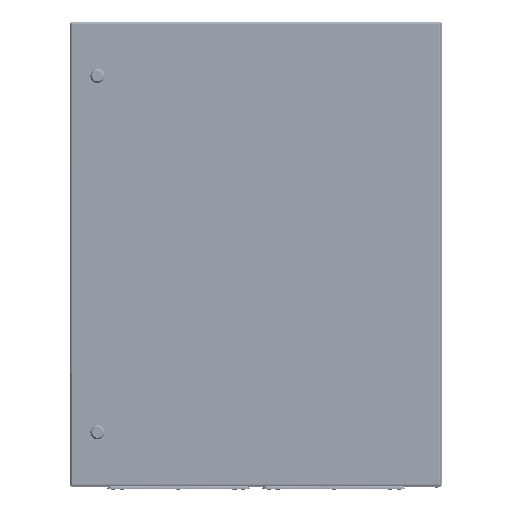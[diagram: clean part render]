
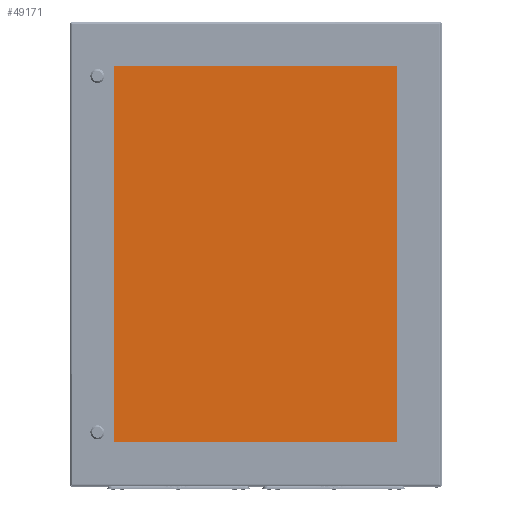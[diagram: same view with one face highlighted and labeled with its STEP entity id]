
A CAD part, top view. The second image highlights one B-rep face of the part: STEP entity #49171.
In plain terms, the highlighted planar face has unit normal (0, 0, 1).
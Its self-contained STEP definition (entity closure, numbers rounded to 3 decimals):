
#813 = CARTESIAN_POINT ( 'NONE',  ( -314., -414., 2. ) ) ;
#1295 = VECTOR ( 'NONE', #49162, 1000. ) ;
#2080 = DIRECTION ( 'NONE',  ( 1., 0., 0. ) ) ;
#2242 = EDGE_CURVE ( 'NONE', #9258, #38231, #34853, .T. ) ;
#2252 = CARTESIAN_POINT ( 'NONE',  ( 0., 0., 2. ) ) ;
#2284 = ORIENTED_EDGE ( 'NONE', *, *, #41032, .T. ) ;
#3219 = ORIENTED_EDGE ( 'NONE', *, *, #14538, .T. ) ;
#3426 = CARTESIAN_POINT ( 'NONE',  ( 314., -414., 2. ) ) ;
#4525 = EDGE_LOOP ( 'NONE', ( #21412, #2284, #34704, #41956, #3219, #46500, #36527, #48562 ) ) ;
#5798 = EDGE_CURVE ( 'NONE', #38625, #10146, #10259, .T. ) ;
#5870 = LINE ( 'NONE', #14790, #9302 ) ;
#6093 = EDGE_CURVE ( 'NONE', #49221, #12010, #29842, .T. ) ;
#6717 = CARTESIAN_POINT ( 'NONE',  ( -314., 415., 2. ) ) ;
#9258 = VERTEX_POINT ( 'NONE', #6717 ) ;
#9302 = VECTOR ( 'NONE', #31752, 1000. ) ;
#10146 = VERTEX_POINT ( 'NONE', #43027 ) ;
#10259 = CIRCLE ( 'NONE', #36962, 1. ) ;
#11228 = CARTESIAN_POINT ( 'NONE',  ( -314., 414., 2. ) ) ;
#12010 = VERTEX_POINT ( 'NONE', #42222 ) ;
#12043 = DIRECTION ( 'NONE',  ( 0., 0., 1. ) ) ;
#12281 = VECTOR ( 'NONE', #47919, 1000. ) ;
#14538 = EDGE_CURVE ( 'NONE', #12010, #38625, #5870, .T. ) ;
#14790 = CARTESIAN_POINT ( 'NONE',  ( 315., -415., 2. ) ) ;
#15875 = AXIS2_PLACEMENT_3D ( 'NONE', #2252, #43745, #18736 ) ;
#18110 = DIRECTION ( 'NONE',  ( 0., 0., 1. ) ) ;
#18354 = CARTESIAN_POINT ( 'NONE',  ( 315., 414., 2. ) ) ;
#18736 = DIRECTION ( 'NONE',  ( 1., 0., 0. ) ) ;
#19268 = FACE_OUTER_BOUND ( 'NONE', #4525, .T. ) ;
#20218 = CARTESIAN_POINT ( 'NONE',  ( -315., -414., 2. ) ) ;
#20544 = DIRECTION ( 'NONE',  ( 0., 0., 1. ) ) ;
#21412 = ORIENTED_EDGE ( 'NONE', *, *, #37827, .T. ) ;
#22341 = DIRECTION ( 'NONE',  ( 1., 0., 0. ) ) ;
#22906 = PLANE ( 'NONE',  #15875 ) ;
#25540 = AXIS2_PLACEMENT_3D ( 'NONE', #813, #18110, #35047 ) ;
#26218 = CARTESIAN_POINT ( 'NONE',  ( -315., 414., 2. ) ) ;
#28227 = DIRECTION ( 'NONE',  ( 0., 0., 1. ) ) ;
#29842 = CIRCLE ( 'NONE', #46732, 1. ) ;
#30392 = CARTESIAN_POINT ( 'NONE',  ( -314., -415., 2. ) ) ;
#30665 = CARTESIAN_POINT ( 'NONE',  ( 315., -415., 2. ) ) ;
#31752 = DIRECTION ( 'NONE',  ( 0., 1., 0. ) ) ;
#32109 = VECTOR ( 'NONE', #22341, 1000. ) ;
#32361 = EDGE_CURVE ( 'NONE', #35327, #49221, #52402, .T. ) ;
#32906 = DIRECTION ( 'NONE',  ( 1., 0., 0. ) ) ;
#33299 = CARTESIAN_POINT ( 'NONE',  ( 314., 414., 2. ) ) ;
#33482 = CIRCLE ( 'NONE', #25540, 1. ) ;
#34704 = ORIENTED_EDGE ( 'NONE', *, *, #32361, .T. ) ;
#34853 = CIRCLE ( 'NONE', #50866, 1. ) ;
#35047 = DIRECTION ( 'NONE',  ( 1., 0., 0. ) ) ;
#35327 = VERTEX_POINT ( 'NONE', #30392 ) ;
#36527 = ORIENTED_EDGE ( 'NONE', *, *, #47830, .T. ) ;
#36650 = CARTESIAN_POINT ( 'NONE',  ( -315., -415., 2. ) ) ;
#36962 = AXIS2_PLACEMENT_3D ( 'NONE', #33299, #20544, #50292 ) ;
#37827 = EDGE_CURVE ( 'NONE', #38231, #41145, #54197, .T. ) ;
#38231 = VERTEX_POINT ( 'NONE', #26218 ) ;
#38625 = VERTEX_POINT ( 'NONE', #18354 ) ;
#39559 = LINE ( 'NONE', #44570, #12281 ) ;
#40123 = CARTESIAN_POINT ( 'NONE',  ( 314., -415., 2. ) ) ;
#41032 = EDGE_CURVE ( 'NONE', #41145, #35327, #33482, .T. ) ;
#41145 = VERTEX_POINT ( 'NONE', #20218 ) ;
#41956 = ORIENTED_EDGE ( 'NONE', *, *, #6093, .T. ) ;
#42222 = CARTESIAN_POINT ( 'NONE',  ( 315., -414., 2. ) ) ;
#43027 = CARTESIAN_POINT ( 'NONE',  ( 314., 415., 2. ) ) ;
#43745 = DIRECTION ( 'NONE',  ( 0., 0., 1. ) ) ;
#44570 = CARTESIAN_POINT ( 'NONE',  ( 315., 415., 2. ) ) ;
#46500 = ORIENTED_EDGE ( 'NONE', *, *, #5798, .T. ) ;
#46732 = AXIS2_PLACEMENT_3D ( 'NONE', #3426, #12043, #32906 ) ;
#47830 = EDGE_CURVE ( 'NONE', #10146, #9258, #39559, .T. ) ;
#47919 = DIRECTION ( 'NONE',  ( -1., 0., 0. ) ) ;
#48562 = ORIENTED_EDGE ( 'NONE', *, *, #2242, .T. ) ;
#49162 = DIRECTION ( 'NONE',  ( 0., -1., 0. ) ) ;
#49171 = ADVANCED_FACE ( 'NONE', ( #19268 ), #22906, .T. ) ;
#49221 = VERTEX_POINT ( 'NONE', #40123 ) ;
#50292 = DIRECTION ( 'NONE',  ( 1., 0., 0. ) ) ;
#50866 = AXIS2_PLACEMENT_3D ( 'NONE', #11228, #28227, #2080 ) ;
#52402 = LINE ( 'NONE', #30665, #32109 ) ;
#54197 = LINE ( 'NONE', #36650, #1295 ) ;
